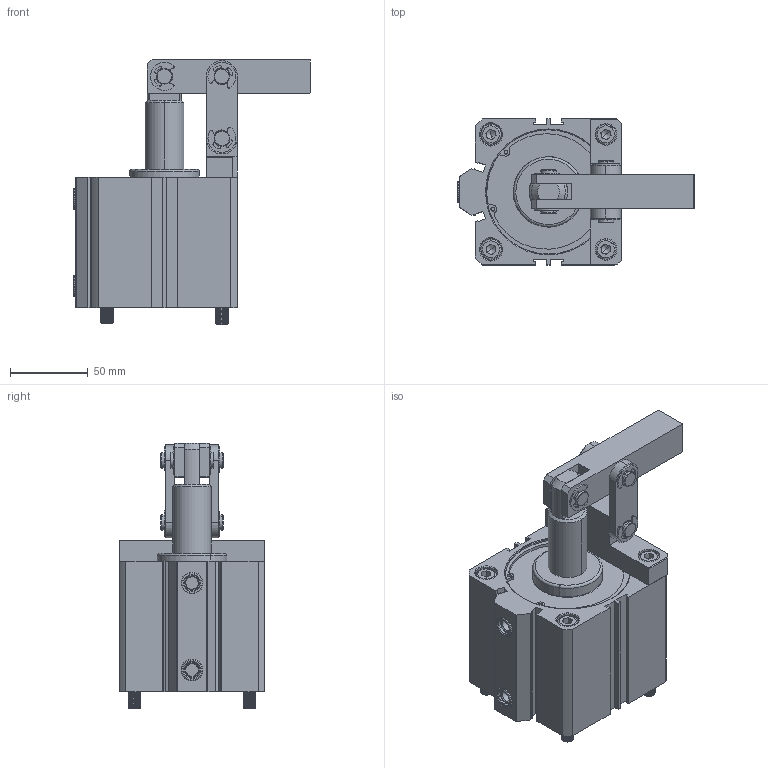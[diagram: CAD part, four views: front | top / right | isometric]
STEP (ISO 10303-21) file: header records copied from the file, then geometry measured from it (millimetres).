
FILE_DESCRIPTION(('FreeCAD Model'),'2;1');
FILE_NAME('Open CASCADE Shape Model','2021-08-17T17:36:21',('Author'),( ''),'Open CASCADE STEP processor 7.4','FreeCAD','Unknown');
FILE_SCHEMA(('AUTOMOTIVE_DESIGN { 1 0 10303 214 1 1 1 1 }'));
Length unit declared in the file: millimetre
Products named in the file (16): PLP-80; DESETEC001; DESETEC002; DESETEC003; DESETEC004; DESETEC005; DESETEC006; DESETEC007; DESETEC008; DESETEC011; DESETEC015; DESETEC019; DESETEC022; DESETEC023; DESETEC024; DESETEC025
Assembly tree (26 placements, depth 2):
  PLP-80
    DESETEC001  x6
    DESETEC002  x2
    DESETEC003  x2
    DESETEC004  x2
    DESETEC005  x2
    DESETEC006  x2
    DESETEC007  x2
    DESETEC008
    DESETEC011
    DESETEC015
    DESETEC019
    DESETEC022
    DESETEC023
    DESETEC024
    DESETEC025
Bounding box: 152.5 x 94 x 171 mm (x, y, z)
Volume: 613567.9 mm3; surface area: 193330.2 mm2
Topology: 26 solids, 26 shells, 1695 faces, 3813 edges, 2229 vertices
Faces by surface type: cone 650, cylinder 629, plane 305, torus 76, bspline 35
Entity records: 71837 total; most frequent: CARTESIAN_POINT 23318, DIRECTION 9542, LINE 5073, VECTOR 5073, ORIENTED_EDGE 4656, PCURVE 4656, DEFINITIONAL_REPRESENTATION 4656, EDGE_CURVE 2328
